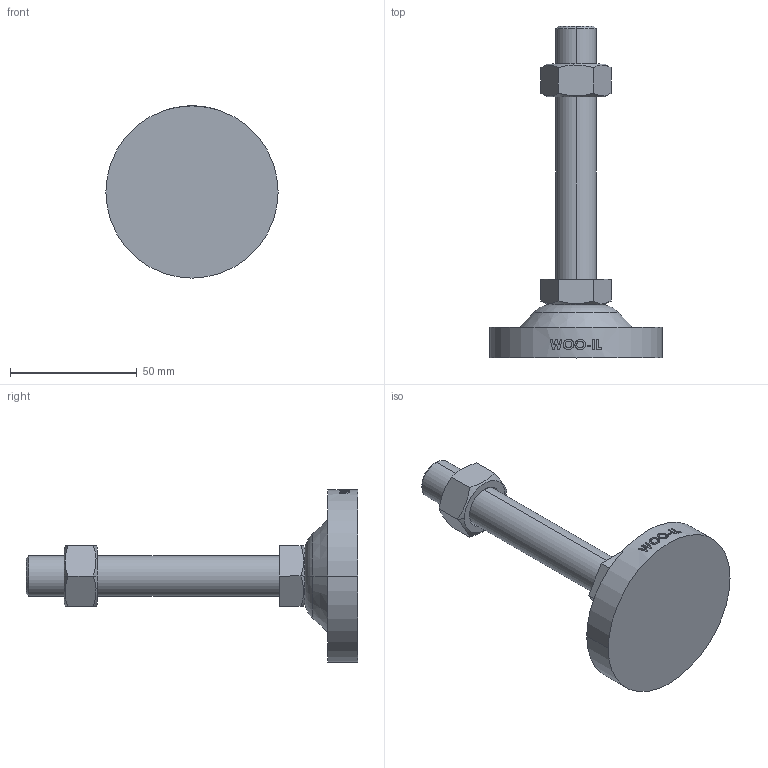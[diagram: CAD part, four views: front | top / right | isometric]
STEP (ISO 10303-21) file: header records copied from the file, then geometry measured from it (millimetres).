
FILE_DESCRIPTION (( 'STEP AP214' ), '1' );
FILE_NAME ('RB68-M16-100.step', '2021-01-18T05:50:33', ( '' ), ( '' ), 'SwSTEP 2.0', 'SolidWorks 2019', '' );
FILE_SCHEMA (( 'AUTOMOTIVE_DESIGN' ));
Length unit declared in the file: millimetre
Products named in the file (2): RB68-M16-100
Bounding box: 68 x 131 x 68 mm (x, y, z)
Volume: 77054.9 mm3; surface area: 21048.1 mm2
Topology: 2 solids, 3 shells, 128 faces, 317 edges, 206 vertices
Faces by surface type: plane 48, cylinder 42, bspline 18, cone 16, torus 4
Entity records: 5349 total; most frequent: CARTESIAN_POINT 2507, ORIENTED_EDGE 634, DIRECTION 479, EDGE_CURVE 317, VERTEX_POINT 206, AXIS2_PLACEMENT_3D 176, EDGE_LOOP 141, FACE_OUTER_BOUND 128
